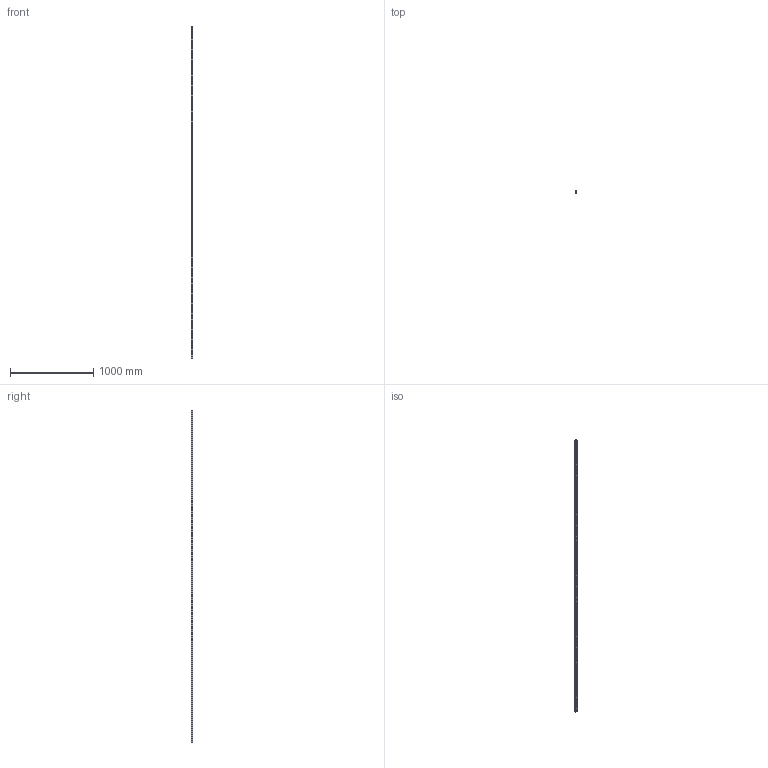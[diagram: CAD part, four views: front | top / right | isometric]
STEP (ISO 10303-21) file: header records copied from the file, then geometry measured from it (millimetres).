
FILE_DESCRIPTION (( 'STEP AP203' ), '1' );
FILE_NAME ('SGR25R4000L.STEP', '2025-06-26T09:00:17', ( 'Owner' ), ( 'Organization' ), 'SwSTEP 2.0', 'SolidWorks 2020', '' );
FILE_SCHEMA (( 'CONFIG_CONTROL_DESIGN' ));
Length unit declared in the file: millimetre
Products named in the file (1): SGR25R4000L
Bounding box: 23 x 22 x 4000 mm (x, y, z)
Volume: 1641546.5 mm3; surface area: 403745.8 mm2
Topology: 1 solids, 1 shells, 570 faces, 1704 edges, 1136 vertices
Faces by surface type: plane 294, cylinder 276
Entity records: 19933 total; most frequent: CARTESIAN_POINT 4215, ORIENTED_EDGE 3408, DIRECTION 3398, EDGE_CURVE 1704, AXIS2_PLACEMENT_3D 1391, VERTEX_POINT 1136, CIRCLE 820, EDGE_LOOP 704
